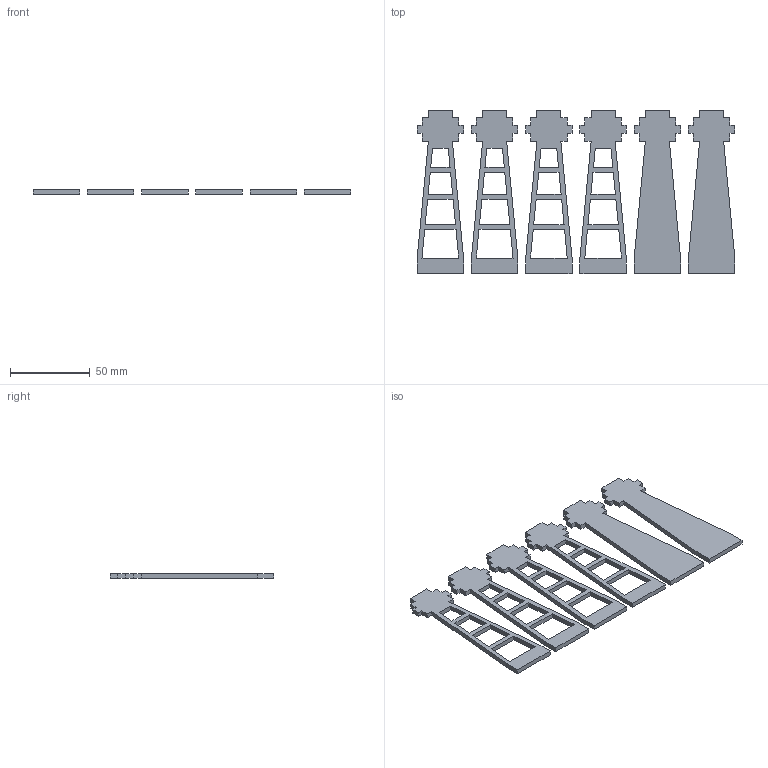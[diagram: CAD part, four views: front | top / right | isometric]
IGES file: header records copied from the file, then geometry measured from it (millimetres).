
Start section: SolidWorks IGES FILE using analytic representation for surfaces
Global section: file name: C:\Documents and Settings\MYKEUL\Bureau\FABRICATION MAQUETTES FINAL\MAQUETTE N°3 SUSPENDU\FICHIERS FAB ASSEMBLAGE\FICHIERS IGS\Piliers.IGS; native system: SolidWorks 2001 by SolidWorks Corporation; preprocessor: Version 5.2; author: MYKEUL; date: 081031.171343; units: millimetre
Bounding box: 199.46 x 102.46 x 3 mm (x, y, z)
Surface area: 28172.5 mm2 (no closed solid volume)
Topology: 0 solids, 0 shells, 208 faces, 1176 edges, 1176 vertices
Faces by surface type: bspline 208
